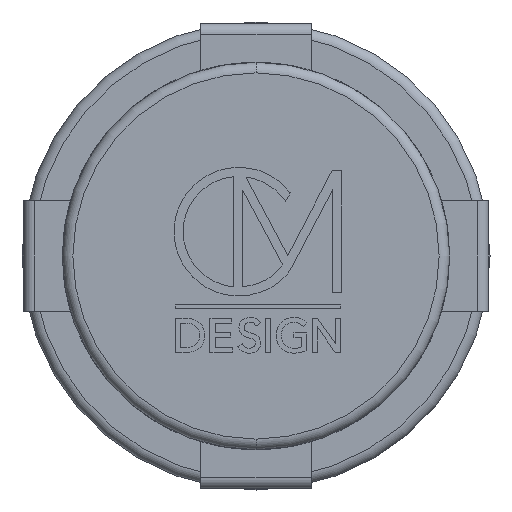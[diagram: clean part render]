
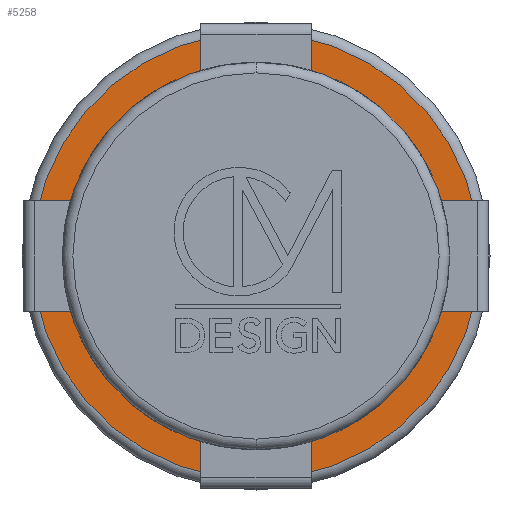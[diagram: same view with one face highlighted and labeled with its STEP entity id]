
A CAD part, front view. The second image highlights one B-rep face of the part: STEP entity #5258.
In plain terms, the highlighted planar face has unit normal (0, -1, 0).
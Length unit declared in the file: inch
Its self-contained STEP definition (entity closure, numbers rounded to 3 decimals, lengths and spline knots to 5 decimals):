
#400 = DIRECTION ( 'NONE',  ( 0., 0., -1. ) ) ;
#490 = CARTESIAN_POINT ( 'NONE',  ( 0., 1.63465, 0. ) ) ;
#651 = CARTESIAN_POINT ( 'NONE',  ( 0., 1.63465, 0. ) ) ;
#1450 = EDGE_LOOP ( 'NONE', ( #5452, #11864 ) ) ;
#1518 = DIRECTION ( 'NONE',  ( 0., -1., 0. ) ) ;
#1573 = CARTESIAN_POINT ( 'NONE',  ( -1.10438, 1.63465, 0. ) ) ;
#1588 = AXIS2_PLACEMENT_3D ( 'NONE', #490, #9883, #12986 ) ;
#1715 = FACE_BOUND ( 'NONE', #1450, .T. ) ;
#1952 = EDGE_CURVE ( 'NONE', #5564, #12540, #14256, .T. ) ;
#2790 = CARTESIAN_POINT ( 'NONE',  ( 0., 1.63465, 1.05438 ) ) ;
#2988 = FACE_OUTER_BOUND ( 'NONE', #11810, .T. ) ;
#3897 = DIRECTION ( 'NONE',  ( 0., 0., 1. ) ) ;
#4152 = EDGE_CURVE ( 'NONE', #12540, #5564, #8781, .T. ) ;
#4423 = CARTESIAN_POINT ( 'NONE',  ( 0., 1.63465, 0. ) ) ;
#4678 = CARTESIAN_POINT ( 'NONE',  ( 0., 1.63465, 0.59375 ) ) ;
#4730 = AXIS2_PLACEMENT_3D ( 'NONE', #4423, #8976, #13552 ) ;
#5043 = ORIENTED_EDGE ( 'NONE', *, *, #1952, .T. ) ;
#5258 = ADVANCED_FACE ( 'NONE', ( #2988, #1715 ), #9568, .F. ) ;
#5276 = DIRECTION ( 'NONE',  ( 0., -1., 0. ) ) ;
#5452 = ORIENTED_EDGE ( 'NONE', *, *, #7421, .F. ) ;
#5466 = AXIS2_PLACEMENT_3D ( 'NONE', #1573, #11812, #3897 ) ;
#5564 = VERTEX_POINT ( 'NONE', #11507 ) ;
#6674 = AXIS2_PLACEMENT_3D ( 'NONE', #9430, #1518, #400 ) ;
#7129 = ORIENTED_EDGE ( 'NONE', *, *, #4152, .T. ) ;
#7421 = EDGE_CURVE ( 'NONE', #9186, #14572, #10257, .T. ) ;
#7785 = AXIS2_PLACEMENT_3D ( 'NONE', #651, #5276, #11110 ) ;
#8781 = CIRCLE ( 'NONE', #4730, 1.05438 ) ;
#8976 = DIRECTION ( 'NONE',  ( 0., -1., 0. ) ) ;
#9186 = VERTEX_POINT ( 'NONE', #14141 ) ;
#9430 = CARTESIAN_POINT ( 'NONE',  ( 0., 1.63465, 0. ) ) ;
#9568 = PLANE ( 'NONE',  #5466 ) ;
#9883 = DIRECTION ( 'NONE',  ( 0., -1., 0. ) ) ;
#10160 = CIRCLE ( 'NONE', #7785, 0.59375 ) ;
#10257 = CIRCLE ( 'NONE', #6674, 0.59375 ) ;
#10917 = EDGE_CURVE ( 'NONE', #14572, #9186, #10160, .T. ) ;
#11110 = DIRECTION ( 'NONE',  ( 0., 0., -1. ) ) ;
#11507 = CARTESIAN_POINT ( 'NONE',  ( 0., 1.63465, -1.05438 ) ) ;
#11810 = EDGE_LOOP ( 'NONE', ( #7129, #5043 ) ) ;
#11812 = DIRECTION ( 'NONE',  ( 0., 1., 0. ) ) ;
#11864 = ORIENTED_EDGE ( 'NONE', *, *, #10917, .F. ) ;
#12540 = VERTEX_POINT ( 'NONE', #2790 ) ;
#12986 = DIRECTION ( 'NONE',  ( 0., 0., 1. ) ) ;
#13552 = DIRECTION ( 'NONE',  ( 0., 0., 1. ) ) ;
#14141 = CARTESIAN_POINT ( 'NONE',  ( 0., 1.63465, -0.59375 ) ) ;
#14256 = CIRCLE ( 'NONE', #1588, 1.05438 ) ;
#14572 = VERTEX_POINT ( 'NONE', #4678 ) ;
